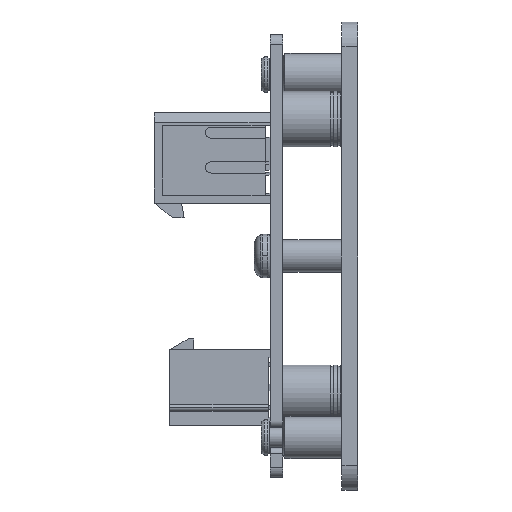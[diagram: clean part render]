
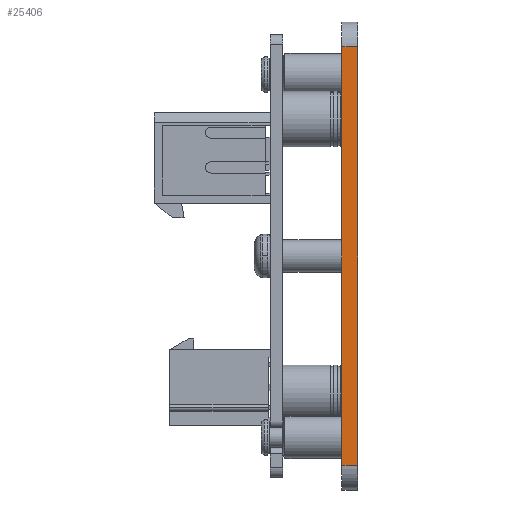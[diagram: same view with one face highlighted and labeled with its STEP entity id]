
A CAD part, left-side view. The second image highlights one B-rep face of the part: STEP entity #25406.
In plain terms, the highlighted planar face has unit normal (-1, 0, 0).
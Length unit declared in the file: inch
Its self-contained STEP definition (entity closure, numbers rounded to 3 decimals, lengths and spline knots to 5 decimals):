
#3834 = CARTESIAN_POINT ( 'NONE',  ( -0.86423, 1.66263, 1.81082 ) ) ;
#4428 = EDGE_CURVE ( 'NONE', #19676, #19732, #40533, .T. ) ;
#5183 = CARTESIAN_POINT ( 'NONE',  ( -0.86423, 1.66263, 3.91082 ) ) ;
#5823 = EDGE_CURVE ( 'NONE', #18790, #19676, #7220, .T. ) ;
#5857 = EDGE_CURVE ( 'NONE', #18790, #34234, #35852, .T. ) ;
#6251 = DIRECTION ( 'NONE',  ( 0., 0., 1. ) ) ;
#7017 = DIRECTION ( 'NONE',  ( 0., 0., 1. ) ) ;
#7217 = VECTOR ( 'NONE', #6251, 39.37008 ) ;
#7220 = LINE ( 'NONE', #7495, #20649 ) ;
#7495 = CARTESIAN_POINT ( 'NONE',  ( -0.86423, 1.66263, 1.81082 ) ) ;
#10758 = CARTESIAN_POINT ( 'NONE',  ( -0.86423, 1.74137, 3.91082 ) ) ;
#11723 = ORIENTED_EDGE ( 'NONE', *, *, #4428, .T. ) ;
#11971 = DIRECTION ( 'NONE',  ( 0., -1., 0. ) ) ;
#17081 = ORIENTED_EDGE ( 'NONE', *, *, #35178, .T. ) ;
#18790 = VERTEX_POINT ( 'NONE', #49588 ) ;
#19676 = VERTEX_POINT ( 'NONE', #3834 ) ;
#19732 = VERTEX_POINT ( 'NONE', #5183 ) ;
#20449 = FACE_OUTER_BOUND ( 'NONE', #24407, .T. ) ;
#20649 = VECTOR ( 'NONE', #11971, 39.37008 ) ;
#23599 = CARTESIAN_POINT ( 'NONE',  ( -0.86423, 1.66263, 4.03582 ) ) ;
#24407 = EDGE_LOOP ( 'NONE', ( #11723, #17081, #45933, #52429 ) ) ;
#24426 = DIRECTION ( 'NONE',  ( 0., 1., 0. ) ) ;
#24705 = AXIS2_PLACEMENT_3D ( 'NONE', #45186, #24900, #7017 ) ;
#24900 = DIRECTION ( 'NONE',  ( -1., 0., 0. ) ) ;
#25406 = ADVANCED_FACE ( 'NONE', ( #20449 ), #37703, .T. ) ;
#26867 = VECTOR ( 'NONE', #24426, 39.37008 ) ;
#28362 = LINE ( 'NONE', #45275, #26867 ) ;
#31690 = DIRECTION ( 'NONE',  ( 0., 0., 1. ) ) ;
#34234 = VERTEX_POINT ( 'NONE', #10758 ) ;
#35037 = CARTESIAN_POINT ( 'NONE',  ( -0.86423, 1.74137, 4.03582 ) ) ;
#35178 = EDGE_CURVE ( 'NONE', #19732, #34234, #28362, .T. ) ;
#35852 = LINE ( 'NONE', #35037, #7217 ) ;
#36554 = VECTOR ( 'NONE', #31690, 39.37008 ) ;
#37703 = PLANE ( 'NONE',  #24705 ) ;
#40533 = LINE ( 'NONE', #23599, #36554 ) ;
#45186 = CARTESIAN_POINT ( 'NONE',  ( -0.86423, 1.66263, 4.03582 ) ) ;
#45275 = CARTESIAN_POINT ( 'NONE',  ( -0.86423, 1.66263, 3.91082 ) ) ;
#45933 = ORIENTED_EDGE ( 'NONE', *, *, #5857, .F. ) ;
#49588 = CARTESIAN_POINT ( 'NONE',  ( -0.86423, 1.74137, 1.81082 ) ) ;
#52429 = ORIENTED_EDGE ( 'NONE', *, *, #5823, .T. ) ;
